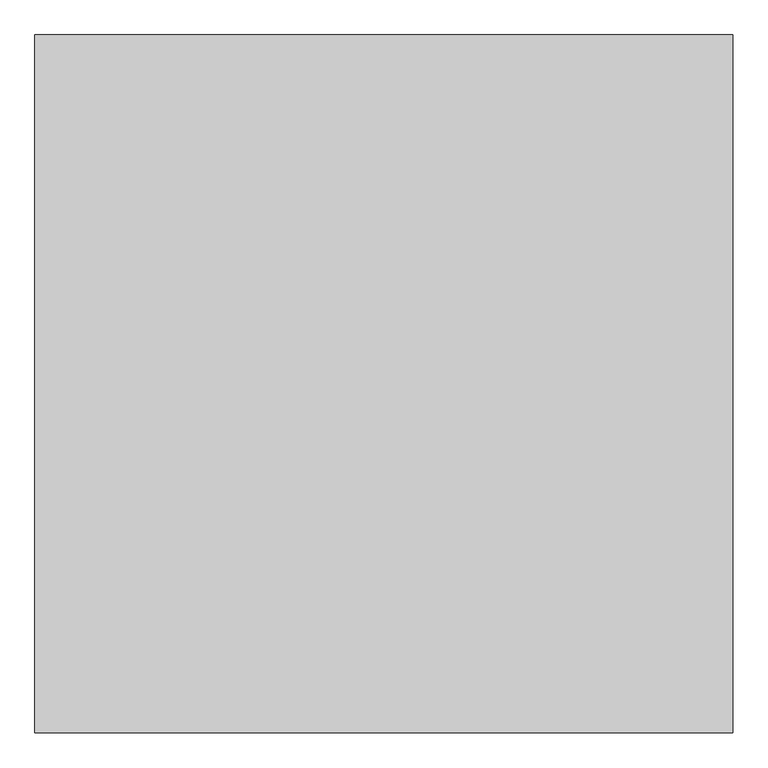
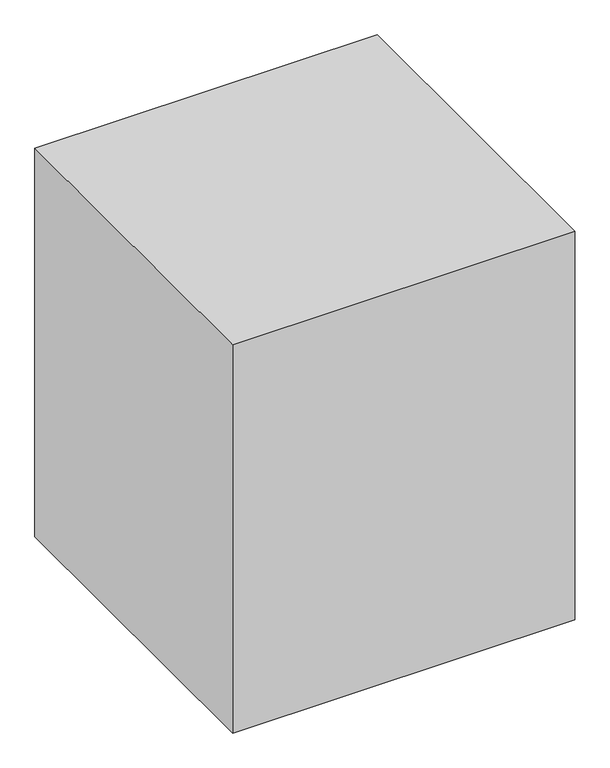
"""IFC4 building model written with IfcOpenShell, lengths in millimetres: proxy geometry, BIMHealth-Wheelchair_Zone-LOD2A-v1 : BIMHealth-Wheelchair_Zone-LOD2A-v1."""

from ifc_helpers import new_model, si_unit, origin, origin_with_axes, place, context, project, spatial, polyline, outline, extrude, source, transform, mapped, element, save


def generic_models_972189fc(model_context):
    return source(origin(), model_context, "Body", "SweptSolid", [
        extrude(outline(polyline([(1500.0, 0.0), (1500.0, -1500.0), (0.0, -1500.0), (0.0, 0.0), (1500.0, 0.0)])), origin_with_axes(), (0.0, 0.0, 1.0), 1800.0),
    ])


if __name__ == "__main__":
    model = new_model("IFC4")
    model_context = context("Model", 3, world=origin())
    ifc_project = project(units=[si_unit("LENGTHUNIT", "METRE", prefix="MILLI")], contexts=[model_context])
    site = spatial("IfcSite", under=ifc_project)
    building = spatial("IfcBuilding", under=site)
    placement = place(None, origin())
    generic_models_shape = generic_models_972189fc(model_context)
    element("IfcBuildingElementProxy", 1, Name="BIMHealth-Wheelchair_Zone-LOD2A-v1 : BIMHealth-Wheelchair_Zone-LOD2A-v1", ObjectType="BIMHealth-Wheelchair_Zone-LOD2A-v1 : BIMHealth-Wheelchair_Zone-LOD2A-v1", at=placement, inside=building, context=model_context, shape_type="MappedRepresentation", body=[
        mapped(generic_models_shape, transform((0.0, 0.0, 0.0), x_axis=(1.0, 0.0, 0.0), y_axis=(0.0, 1.0, 0.0), z_axis=(0.0, 0.0, 1.0))),
    ])
    save(model, "model.ifc")
